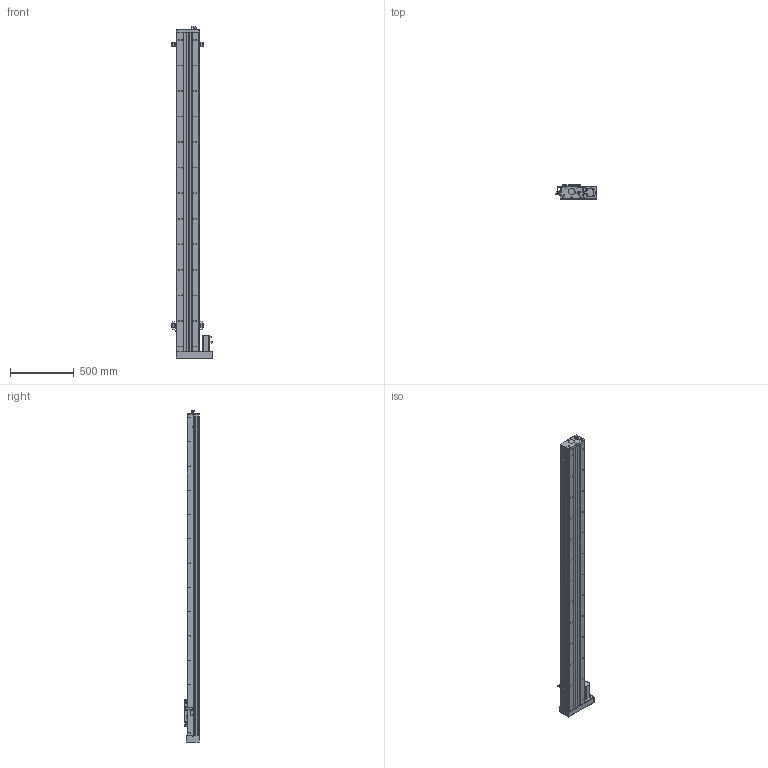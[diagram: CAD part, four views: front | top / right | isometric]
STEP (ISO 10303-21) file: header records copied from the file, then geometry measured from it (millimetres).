
FILE_DESCRIPTION (( 'STEP AP203' ), '1' );
FILE_NAME ('JDBS-180-P -S2200L-2L.STEP', '2012-09-11T04:03:46', ( 'USER' ), ( 'SHARE' ), 'SwSTEP 2.0', 'SolidWorks 2007', '' );
FILE_SCHEMA (( 'CONFIG_CONTROL_DESIGN' ));
Length unit declared in the file: millimetre
Products named in the file (1): JDBS-180-P  -S2200L-2L
Bounding box: 319 x 116.5 x 2598.9 mm (x, y, z)
Volume: 13319937.7 mm3; surface area: 4322564.2 mm2
Topology: 27 solids, 27 shells, 1926 faces, 5410 edges, 3568 vertices
Faces by surface type: cylinder 1102, plane 802, cone 12, sphere 8, torus 2
Entity records: 66805 total; most frequent: CARTESIAN_POINT 14421, DIRECTION 11235, ORIENTED_EDGE 10804, EDGE_CURVE 5402, AXIS2_PLACEMENT_3D 4196, VERTEX_POINT 3568, LINE 2843, VECTOR 2843
